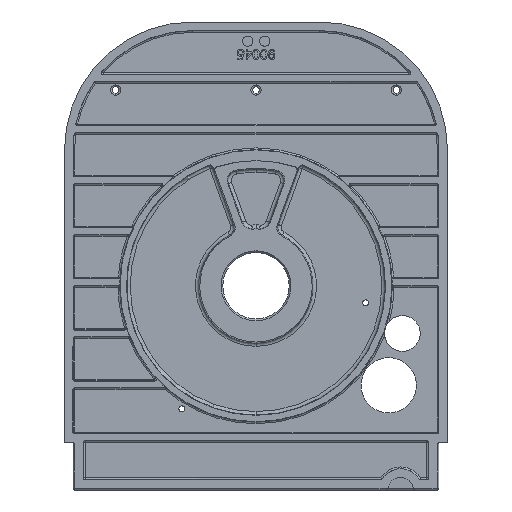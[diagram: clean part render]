
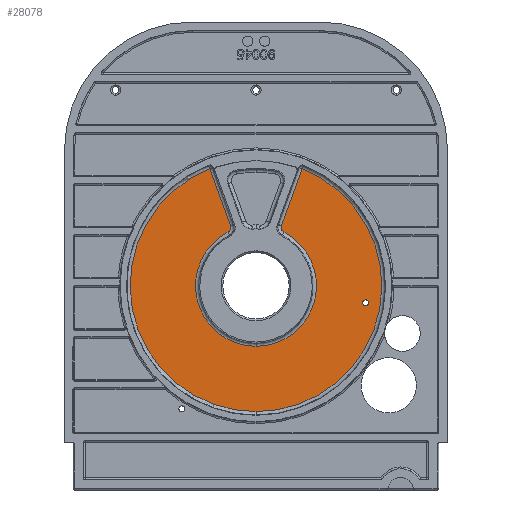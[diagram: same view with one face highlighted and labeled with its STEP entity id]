
A CAD part, front view. The second image highlights one B-rep face of the part: STEP entity #28078.
In plain terms, the highlighted planar face has unit normal (0, -1, 0).
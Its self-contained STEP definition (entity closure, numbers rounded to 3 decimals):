
#16 = CARTESIAN_POINT ( 'NONE',  ( 0., 3., 46.055 ) ) ;
#89 = AXIS2_PLACEMENT_3D ( 'NONE', #17737, #20350, #18167 ) ;
#113 = CARTESIAN_POINT ( 'NONE',  ( 14.96, 3., 153.269 ) ) ;
#566 = ORIENTED_EDGE ( 'NONE', *, *, #3442, .T. ) ;
#573 = CARTESIAN_POINT ( 'NONE',  ( -14.834, 3., 154.511 ) ) ;
#836 = VERTEX_POINT ( 'NONE', #18095 ) ;
#1184 = ORIENTED_EDGE ( 'NONE', *, *, #29277, .T. ) ;
#1454 = CIRCLE ( 'NONE', #10922, 1.7 ) ;
#1911 = VERTEX_POINT ( 'NONE', #29499 ) ;
#2344 = LINE ( 'NONE', #5207, #8247 ) ;
#2642 = CARTESIAN_POINT ( 'NONE',  ( 15.17, 3., 152.773 ) ) ;
#2799 = ORIENTED_EDGE ( 'NONE', *, *, #16332, .T. ) ;
#2801 = VECTOR ( 'NONE', #5300, 1000. ) ;
#2998 = CARTESIAN_POINT ( 'NONE',  ( -15.839, 3., 151.93 ) ) ;
#3094 = CARTESIAN_POINT ( 'NONE',  ( -14.941, 3., 155.041 ) ) ;
#3393 = DIRECTION ( 'NONE',  ( 0., -1., 0. ) ) ;
#3442 = EDGE_CURVE ( 'NONE', #26167, #18283, #32218, .T. ) ;
#3564 = LINE ( 'NONE', #12833, #2801 ) ;
#3913 = DIRECTION ( 'NONE',  ( 0., -1., 0. ) ) ;
#4603 = CARTESIAN_POINT ( 'NONE',  ( -15.003, 3., 155.211 ) ) ;
#4609 = B_SPLINE_CURVE_WITH_KNOTS ( 'NONE', 3,
 ( #22679, #20138, #25243, #10178, #27799, #12696, #30358, #15221, #113, #17731, #2642, #20243, #5163, #22784, #7703, #25356, #10281, #27899 ),
 .UNSPECIFIED., .F., .F.,
 ( 4, 2, 2, 2, 2, 2, 2, 2, 4 ),
 ( 0., 0.001, 0.001, 0.002, 0.002, 0.003, 0.003, 0.004, 0.004 ),
 .UNSPECIFIED. ) ;
#5163 = CARTESIAN_POINT ( 'NONE',  ( 15.466, 3., 152.322 ) ) ;
#5207 = CARTESIAN_POINT ( 'NONE',  ( -1.931, 3., 119.297 ) ) ;
#5300 = DIRECTION ( 'NONE',  ( -0.342, 0., -0.94 ) ) ;
#5501 = CARTESIAN_POINT ( 'NONE',  ( -15.466, 3., 152.322 ) ) ;
#6263 = AXIS2_PLACEMENT_3D ( 'NONE', #7713, #25370, #10289 ) ;
#7703 = CARTESIAN_POINT ( 'NONE',  ( 15.836, 3., 151.932 ) ) ;
#7713 = CARTESIAN_POINT ( 'NONE',  ( 0., 3., 120. ) ) ;
#7750 = DIRECTION ( 'NONE',  ( -0.342, 0., 0.94 ) ) ;
#7908 = DIRECTION ( 'NONE',  ( 0., 1., 0. ) ) ;
#8064 = CARTESIAN_POINT ( 'NONE',  ( -15.172, 3., 152.77 ) ) ;
#8247 = VECTOR ( 'NONE', #7750, 1000. ) ;
#8761 = FACE_BOUND ( 'NONE', #27679, .T. ) ;
#9372 = EDGE_CURVE ( 'NONE', #14281, #24469, #1454, .T. ) ;
#10093 = EDGE_CURVE ( 'NONE', #29867, #26167, #14857, .T. ) ;
#10178 = CARTESIAN_POINT ( 'NONE',  ( 14.835, 3., 154.515 ) ) ;
#10281 = CARTESIAN_POINT ( 'NONE',  ( 16.273, 3., 151.613 ) ) ;
#10289 = DIRECTION ( 'NONE',  ( 0., 0., -1. ) ) ;
#10574 = CARTESIAN_POINT ( 'NONE',  ( 64.47, 3., 111.7 ) ) ;
#10610 = CARTESIAN_POINT ( 'NONE',  ( -14.96, 3., 153.269 ) ) ;
#10922 = AXIS2_PLACEMENT_3D ( 'NONE', #25406, #16436, #22655 ) ;
#11622 = CARTESIAN_POINT ( 'NONE',  ( 15.003, 3., 155.211 ) ) ;
#11887 = ORIENTED_EDGE ( 'NONE', *, *, #31138, .F. ) ;
#12696 = CARTESIAN_POINT ( 'NONE',  ( 14.824, 3., 153.973 ) ) ;
#12833 = CARTESIAN_POINT ( 'NONE',  ( 1.931, 3., 119.297 ) ) ;
#13042 = CARTESIAN_POINT ( 'NONE',  ( -16.273, 3., 151.613 ) ) ;
#13147 = CARTESIAN_POINT ( 'NONE',  ( -14.842, 3., 153.792 ) ) ;
#13658 = DIRECTION ( 'NONE',  ( 0., 0., -1. ) ) ;
#13948 = CARTESIAN_POINT ( 'NONE',  ( 0., 3., 120. ) ) ;
#14281 = VERTEX_POINT ( 'NONE', #16038 ) ;
#14857 = CIRCLE ( 'NONE', #22528, 73.945 ) ;
#15221 = CARTESIAN_POINT ( 'NONE',  ( 14.91, 3., 153.444 ) ) ;
#15274 = EDGE_CURVE ( 'NONE', #30505, #29867, #2344, .T. ) ;
#15668 = CARTESIAN_POINT ( 'NONE',  ( -14.82, 3., 154.333 ) ) ;
#15776 = EDGE_CURVE ( 'NONE', #21829, #1911, #18847, .T. ) ;
#15983 = CARTESIAN_POINT ( 'NONE',  ( 0., 3., 120. ) ) ;
#16038 = CARTESIAN_POINT ( 'NONE',  ( 64.47, 3., 108.3 ) ) ;
#16332 = EDGE_CURVE ( 'NONE', #1911, #836, #23572, .T. ) ;
#16436 = DIRECTION ( 'NONE',  ( 0., -1., 0. ) ) ;
#17300 = AXIS2_PLACEMENT_3D ( 'NONE', #19005, #3913, #21534 ) ;
#17731 = CARTESIAN_POINT ( 'NONE',  ( 15.09, 3., 152.933 ) ) ;
#17737 = CARTESIAN_POINT ( 'NONE',  ( 0., 3., 120. ) ) ;
#18082 = CARTESIAN_POINT ( 'NONE',  ( -16.122, 3., 151.71 ) ) ;
#18095 = CARTESIAN_POINT ( 'NONE',  ( -16.433, 3., 151.53 ) ) ;
#18167 = DIRECTION ( 'NONE',  ( 0., 0., -1. ) ) ;
#18194 = CARTESIAN_POINT ( 'NONE',  ( -14.894, 3., 154.864 ) ) ;
#18283 = VERTEX_POINT ( 'NONE', #31570 ) ;
#18847 = CIRCLE ( 'NONE', #6263, 35.555 ) ;
#19005 = CARTESIAN_POINT ( 'NONE',  ( 64.47, 3., 110. ) ) ;
#19852 = CARTESIAN_POINT ( 'NONE',  ( 16.433, 3., 151.53 ) ) ;
#19861 = ORIENTED_EDGE ( 'NONE', *, *, #9372, .F. ) ;
#19888 = B_SPLINE_CURVE_WITH_KNOTS ( 'NONE', 3,
 ( #25609, #13042, #18082, #2998, #20593, #5501, #23133, #8064, #25725, #10610, #28244, #13147, #30813, #15668, #573, #18194, #3094, #20700 ),
 .UNSPECIFIED., .F., .F.,
 ( 4, 2, 2, 2, 2, 2, 2, 2, 4 ),
 ( 0., 0.001, 0.001, 0.002, 0.002, 0.003, 0.003, 0.004, 0.004 ),
 .UNSPECIFIED. ) ;
#20138 = CARTESIAN_POINT ( 'NONE',  ( 14.941, 3., 155.041 ) ) ;
#20243 = CARTESIAN_POINT ( 'NONE',  ( 15.357, 3., 152.468 ) ) ;
#20350 = DIRECTION ( 'NONE',  ( 0., -1., 0. ) ) ;
#20418 = CIRCLE ( 'NONE', #17300, 1.7 ) ;
#20593 = CARTESIAN_POINT ( 'NONE',  ( -15.707, 3., 152.053 ) ) ;
#20700 = CARTESIAN_POINT ( 'NONE',  ( -15.003, 3., 155.211 ) ) ;
#21339 = FACE_OUTER_BOUND ( 'NONE', #24118, .T. ) ;
#21353 = ORIENTED_EDGE ( 'NONE', *, *, #10093, .T. ) ;
#21393 = CARTESIAN_POINT ( 'NONE',  ( -27.212, 3., 188.756 ) ) ;
#21431 = DIRECTION ( 'NONE',  ( 0., -1., 0. ) ) ;
#21534 = DIRECTION ( 'NONE',  ( 0., 0., -1. ) ) ;
#21829 = VERTEX_POINT ( 'NONE', #19852 ) ;
#22148 = ORIENTED_EDGE ( 'NONE', *, *, #30142, .T. ) ;
#22528 = AXIS2_PLACEMENT_3D ( 'NONE', #13948, #21431, #28972 ) ;
#22655 = DIRECTION ( 'NONE',  ( 0., 0., -1. ) ) ;
#22679 = CARTESIAN_POINT ( 'NONE',  ( 15.003, 3., 155.211 ) ) ;
#22784 = CARTESIAN_POINT ( 'NONE',  ( 15.706, 3., 152.054 ) ) ;
#22987 = CARTESIAN_POINT ( 'NONE',  ( 0., 3., 120. ) ) ;
#23133 = CARTESIAN_POINT ( 'NONE',  ( -15.359, 3., 152.465 ) ) ;
#23265 = ORIENTED_EDGE ( 'NONE', *, *, #15776, .T. ) ;
#23281 = ORIENTED_EDGE ( 'NONE', *, *, #23949, .T. ) ;
#23572 = CIRCLE ( 'NONE', #25956, 35.555 ) ;
#23949 = EDGE_CURVE ( 'NONE', #18283, #27781, #3564, .T. ) ;
#24084 = AXIS2_PLACEMENT_3D ( 'NONE', #15983, #3393, #13658 ) ;
#24118 = EDGE_LOOP ( 'NONE', ( #27882, #21353, #566, #23281, #1184, #23265, #2799, #22148 ) ) ;
#24469 = VERTEX_POINT ( 'NONE', #10574 ) ;
#25243 = CARTESIAN_POINT ( 'NONE',  ( 14.895, 3., 154.867 ) ) ;
#25356 = CARTESIAN_POINT ( 'NONE',  ( 16.119, 3., 151.712 ) ) ;
#25370 = DIRECTION ( 'NONE',  ( 0., 1., 0. ) ) ;
#25406 = CARTESIAN_POINT ( 'NONE',  ( 64.47, 3., 110. ) ) ;
#25560 = DIRECTION ( 'NONE',  ( 0., 0., -1. ) ) ;
#25609 = CARTESIAN_POINT ( 'NONE',  ( -16.433, 3., 151.53 ) ) ;
#25725 = CARTESIAN_POINT ( 'NONE',  ( -15.091, 3., 152.933 ) ) ;
#25956 = AXIS2_PLACEMENT_3D ( 'NONE', #22987, #7908, #25560 ) ;
#26167 = VERTEX_POINT ( 'NONE', #16 ) ;
#27679 = EDGE_LOOP ( 'NONE', ( #11887, #19861 ) ) ;
#27781 = VERTEX_POINT ( 'NONE', #11622 ) ;
#27799 = CARTESIAN_POINT ( 'NONE',  ( 14.82, 3., 154.335 ) ) ;
#27882 = ORIENTED_EDGE ( 'NONE', *, *, #15274, .T. ) ;
#27899 = CARTESIAN_POINT ( 'NONE',  ( 16.433, 3., 151.53 ) ) ;
#28078 = ADVANCED_FACE ( 'NONE', ( #8761, #21339 ), #28774, .T. ) ;
#28244 = CARTESIAN_POINT ( 'NONE',  ( -14.91, 3., 153.44 ) ) ;
#28774 = PLANE ( 'NONE',  #24084 ) ;
#28972 = DIRECTION ( 'NONE',  ( 0., 0., -1. ) ) ;
#29277 = EDGE_CURVE ( 'NONE', #27781, #21829, #4609, .T. ) ;
#29499 = CARTESIAN_POINT ( 'NONE',  ( 0., 3., 84.445 ) ) ;
#29867 = VERTEX_POINT ( 'NONE', #21393 ) ;
#30142 = EDGE_CURVE ( 'NONE', #836, #30505, #19888, .T. ) ;
#30358 = CARTESIAN_POINT ( 'NONE',  ( 14.842, 3., 153.795 ) ) ;
#30505 = VERTEX_POINT ( 'NONE', #4603 ) ;
#30813 = CARTESIAN_POINT ( 'NONE',  ( -14.824, 3., 153.973 ) ) ;
#31138 = EDGE_CURVE ( 'NONE', #24469, #14281, #20418, .T. ) ;
#31570 = CARTESIAN_POINT ( 'NONE',  ( 27.212, 3., 188.756 ) ) ;
#32218 = CIRCLE ( 'NONE', #89, 73.945 ) ;
